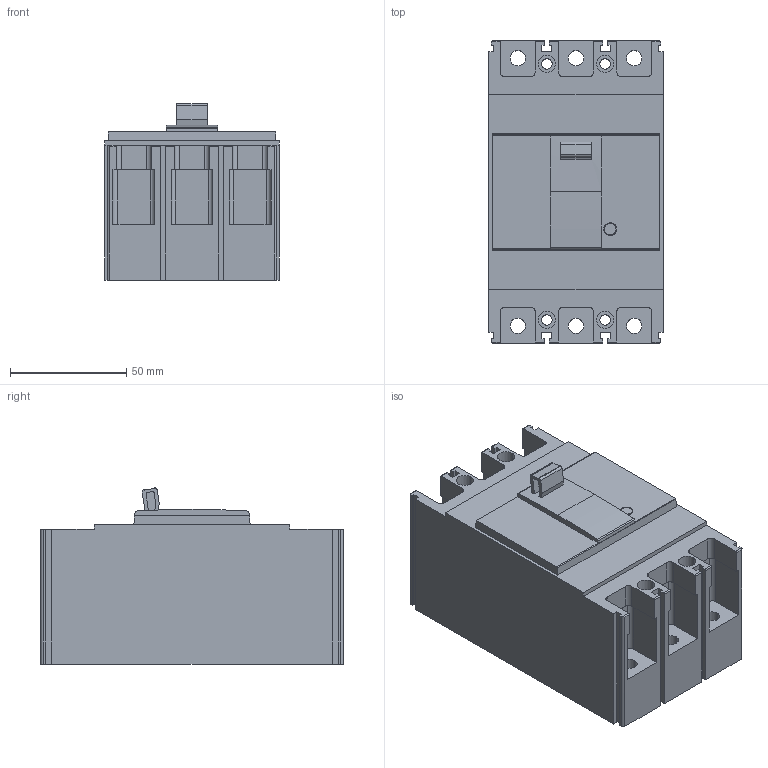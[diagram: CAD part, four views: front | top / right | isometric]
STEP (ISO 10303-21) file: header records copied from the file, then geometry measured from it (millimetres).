
FILE_DESCRIPTION (( 'STEP AP203' ), '1' );
FILE_NAME ('New N Type 3P.STEP', '2018-01-04T01:14:22', ( '' ), ( '' ), 'SwSTEP 2.0', 'SolidWorks 2015', '' );
FILE_SCHEMA (( 'CONFIG_CONTROL_DESIGN' ));
Length unit declared in the file: millimetre
Products named in the file (1): New N Type 3P
Bounding box: 75 x 130 x 75.76 mm (x, y, z)
Volume: 525318.1 mm3; surface area: 61863.8 mm2
Topology: 1 solids, 1 shells, 229 faces, 663 edges, 444 vertices
Faces by surface type: plane 141, cylinder 88
Entity records: 7718 total; most frequent: CARTESIAN_POINT 1379, ORIENTED_EDGE 1326, DIRECTION 1301, EDGE_CURVE 663, VECTOR 477, LINE 477, VERTEX_POINT 444, AXIS2_PLACEMENT_3D 412
